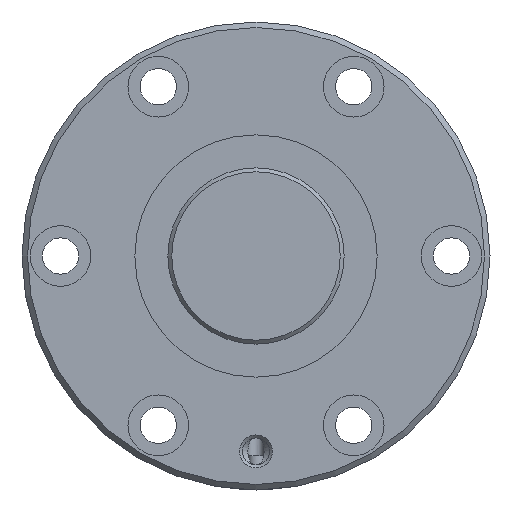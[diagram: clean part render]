
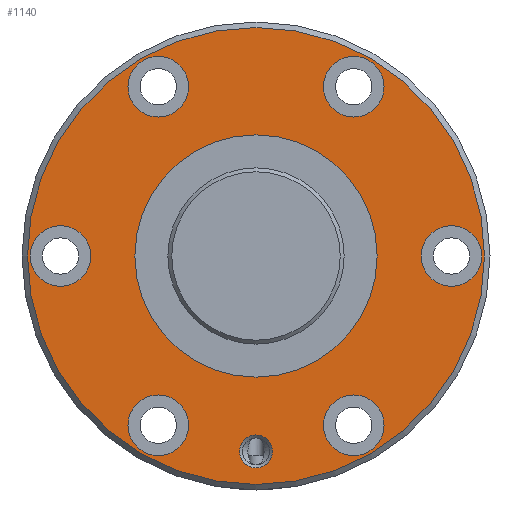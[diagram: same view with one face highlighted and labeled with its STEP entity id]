
A CAD part, left-side view. The second image highlights one B-rep face of the part: STEP entity #1140.
In plain terms, the highlighted planar face has unit normal (-1, 0, 0).
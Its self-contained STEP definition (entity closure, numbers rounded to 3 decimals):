
#200=ORIENTED_EDGE('',*,*,#451,.T.);
#201=ORIENTED_EDGE('',*,*,#452,.T.);
#202=ORIENTED_EDGE('',*,*,#453,.T.);
#203=ORIENTED_EDGE('',*,*,#454,.T.);
#204=ORIENTED_EDGE('',*,*,#455,.T.);
#205=ORIENTED_EDGE('',*,*,#456,.T.);
#206=ORIENTED_EDGE('',*,*,#457,.T.);
#207=ORIENTED_EDGE('',*,*,#458,.T.);
#208=ORIENTED_EDGE('',*,*,#450,.F.);
#450=EDGE_CURVE('',#577,#577,#679,.T.);
#451=EDGE_CURVE('',#578,#578,#680,.T.);
#452=EDGE_CURVE('',#579,#579,#681,.F.);
#453=EDGE_CURVE('',#580,#580,#682,.T.);
#454=EDGE_CURVE('',#581,#581,#683,.T.);
#455=EDGE_CURVE('',#582,#582,#684,.T.);
#456=EDGE_CURVE('',#583,#583,#685,.T.);
#457=EDGE_CURVE('',#584,#584,#686,.T.);
#458=EDGE_CURVE('',#585,#585,#687,.T.);
#577=VERTEX_POINT('',#1931);
#578=VERTEX_POINT('',#1934);
#579=VERTEX_POINT('',#1936);
#580=VERTEX_POINT('',#1938);
#581=VERTEX_POINT('',#1940);
#582=VERTEX_POINT('',#1942);
#583=VERTEX_POINT('',#1944);
#584=VERTEX_POINT('',#1946);
#585=VERTEX_POINT('',#1948);
#679=CIRCLE('',#1268,41.5);
#680=CIRCLE('',#1270,22.);
#681=CIRCLE('',#1271,5.5);
#682=CIRCLE('',#1272,3.);
#683=CIRCLE('',#1273,5.5);
#684=CIRCLE('',#1274,5.5);
#685=CIRCLE('',#1275,5.5);
#686=CIRCLE('',#1276,5.5);
#687=CIRCLE('',#1277,5.5);
#774=EDGE_LOOP('',(#200));
#775=EDGE_LOOP('',(#201));
#776=EDGE_LOOP('',(#202));
#777=EDGE_LOOP('',(#203));
#778=EDGE_LOOP('',(#204));
#779=EDGE_LOOP('',(#205));
#780=EDGE_LOOP('',(#206));
#781=EDGE_LOOP('',(#207));
#782=EDGE_LOOP('',(#208));
#948=FACE_BOUND('',#774,.T.);
#949=FACE_BOUND('',#775,.T.);
#950=FACE_BOUND('',#776,.T.);
#951=FACE_BOUND('',#777,.T.);
#952=FACE_BOUND('',#778,.T.);
#953=FACE_BOUND('',#779,.T.);
#954=FACE_BOUND('',#780,.T.);
#955=FACE_BOUND('',#781,.T.);
#956=FACE_BOUND('',#782,.T.);
#1100=PLANE('',#1269);
#1140=ADVANCED_FACE('',(#948,#949,#950,#951,#952,#953,#954,#955,#956),#1100,
 .T.);
#1268=AXIS2_PLACEMENT_3D('',#1930,#1483,#1484);
#1269=AXIS2_PLACEMENT_3D('',#1932,#1485,#1486);
#1270=AXIS2_PLACEMENT_3D('',#1933,#1487,#1488);
#1271=AXIS2_PLACEMENT_3D('',#1935,#1489,#1490);
#1272=AXIS2_PLACEMENT_3D('',#1937,#1491,#1492);
#1273=AXIS2_PLACEMENT_3D('',#1939,#1493,#1494);
#1274=AXIS2_PLACEMENT_3D('',#1941,#1495,#1496);
#1275=AXIS2_PLACEMENT_3D('',#1943,#1497,#1498);
#1276=AXIS2_PLACEMENT_3D('',#1945,#1499,#1500);
#1277=AXIS2_PLACEMENT_3D('',#1947,#1501,#1502);
#1483=DIRECTION('',(1.,0.,0.));
#1484=DIRECTION('',(0.,0.,-1.));
#1485=DIRECTION('',(-1.,0.,0.));
#1486=DIRECTION('',(0.,0.,1.));
#1487=DIRECTION('',(1.,0.,0.));
#1488=DIRECTION('',(0.,0.,-1.));
#1489=DIRECTION('',(-1.,0.,0.));
#1490=DIRECTION('',(0.,0.,1.));
#1491=DIRECTION('',(1.,0.,0.));
#1492=DIRECTION('',(0.,0.,-1.));
#1493=DIRECTION('',(1.,0.,0.));
#1494=DIRECTION('',(0.,0.,-1.));
#1495=DIRECTION('',(1.,0.,0.));
#1496=DIRECTION('',(0.,0.,-1.));
#1497=DIRECTION('',(1.,0.,0.));
#1498=DIRECTION('',(0.,0.,-1.));
#1499=DIRECTION('',(1.,0.,0.));
#1500=DIRECTION('',(0.,0.,-1.));
#1501=DIRECTION('',(1.,0.,0.));
#1502=DIRECTION('',(0.,0.,-1.));
#1930=CARTESIAN_POINT('',(0.,0.,0.));
#1931=CARTESIAN_POINT('',(0.,0.,-41.5));
#1932=CARTESIAN_POINT('',(0.,41.5,0.));
#1933=CARTESIAN_POINT('',(0.,0.,0.));
#1934=CARTESIAN_POINT('',(0.,0.,-22.));
#1935=CARTESIAN_POINT('',(0.,35.5,0.));
#1936=CARTESIAN_POINT('',(0.,35.5,5.5));
#1937=CARTESIAN_POINT('',(0.,0.,-35.5));
#1938=CARTESIAN_POINT('',(0.,0.,-38.5));
#1939=CARTESIAN_POINT('',(0.,-35.5,0.));
#1940=CARTESIAN_POINT('',(0.,-35.5,-5.5));
#1941=CARTESIAN_POINT('',(0.,17.75,30.744));
#1942=CARTESIAN_POINT('',(0.,17.75,25.244));
#1943=CARTESIAN_POINT('',(0.,-17.75,-30.744));
#1944=CARTESIAN_POINT('',(0.,-17.75,-36.244));
#1945=CARTESIAN_POINT('',(0.,-17.75,30.744));
#1946=CARTESIAN_POINT('',(0.,-17.75,25.244));
#1947=CARTESIAN_POINT('',(0.,17.75,-30.744));
#1948=CARTESIAN_POINT('',(0.,17.75,-36.244));
